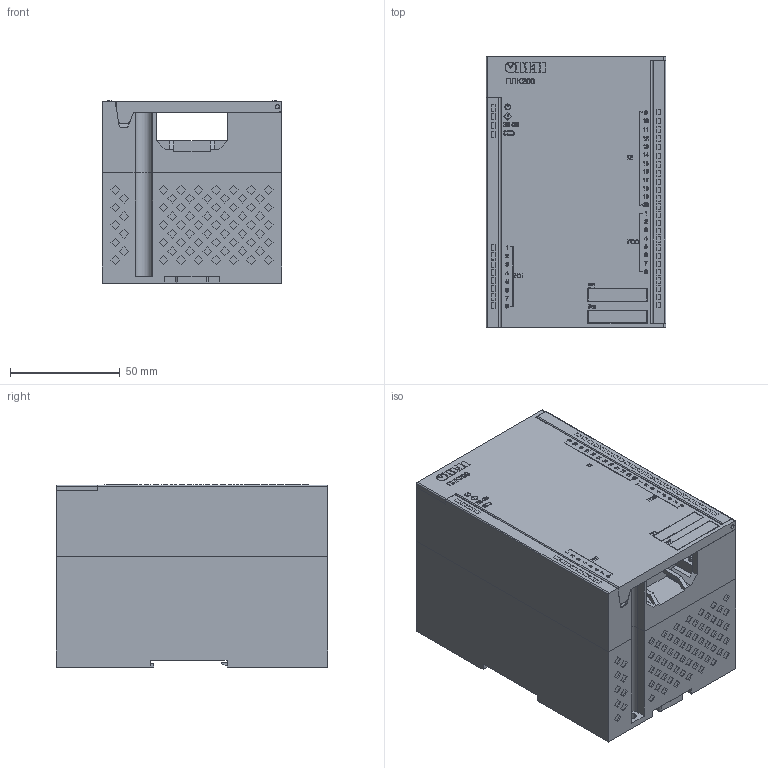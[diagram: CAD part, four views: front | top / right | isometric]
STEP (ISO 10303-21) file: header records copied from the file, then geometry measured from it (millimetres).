
FILE_DESCRIPTION (( 'STEP AP214' ), '1' );
FILE_NAME ('3D Ìîäåëü ÏËÊ200-03-CS.STEP', '2021-05-13T12:08:45', ( '' ), ( '' ), 'SwSTEP 2.0', 'SolidWorks 2015', '' );
FILE_SCHEMA (( 'AUTOMOTIVE_DESIGN' ));
Length unit declared in the file: millimetre
Products named in the file (9): Ðîçåòêà ÏËÊ — ëåâàÿ; Ðîçåòêà ÏËÊ; 扻豵鵨 玹佤00; micro usb b; Ethernet; Êëåììíèê 2çåë; 3D Ìîäåëü ÏËÊ200-03-CS; 署赅 纤蔩00; Ôèêñàòîð ÏËÊ
Assembly tree (9 placements, depth 2):
  3D Ìîäåëü ÏËÊ200-03-CS
    扻豵鵨 玹佤00
    Ôèêñàòîð ÏËÊ
    Ðîçåòêà ÏËÊ
    Ðîçåòêà ÏËÊ — ëåâàÿ
    署赅 纤蔩00
    micro usb b
    Ethernet  x2
    Êëåììíèê 2çåë
Bounding box: 82 x 124.04 x 83.1 mm (x, y, z)
Volume: 728632.7 mm3; surface area: 136000.2 mm2
Topology: 55 solids, 55 shells, 14226 faces, 41554 edges, 27802 vertices
Faces by surface type: plane 13754, cylinder 255, torus 133, cone 84
Entity records: 604672 total; most frequent: CARTESIAN_POINT 85229, ORIENTED_EDGE 82820, DIRECTION 70273, EDGE_CURVE 41410, VECTOR 39861, LINE 39861, VERTEX_POINT 27706, AXIS2_PLACEMENT_3D 15206
